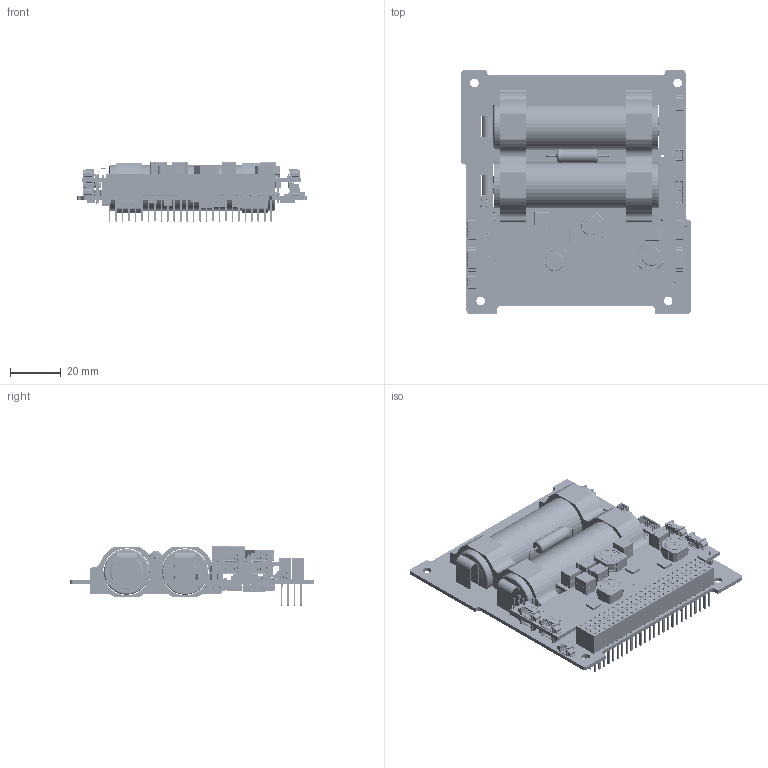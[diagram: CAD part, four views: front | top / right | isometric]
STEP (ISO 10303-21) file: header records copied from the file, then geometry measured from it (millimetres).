
FILE_DESCRIPTION(/* description */ ('Unknown'),/* implementation_level */ '2;1');
FILE_NAME(/* name */ 'SM-AMU-AS-0053_1.0_AMUN 1U Assembly Model',/* time_stamp */ '2025-03-28T14:42:34+01:00',/* author */ ('Unknown'),/* organization */ ('Unknown'),/* preprocessor_version */ 'ST-DEVELOPER v20',/* originating_system */ 'Solid Edge',/* authorisation */ 'Unknown');
FILE_SCHEMA (('AUTOMOTIVE_DESIGN {1 0 10303 214 3 1 1}'));
Products named in the file (224): RMC-PSU2_lowdetail; Board; BAT3; Batery Pack; NCR18650B_Vìchoz¡; Vyvody_Vìchoz¡; R18; KNP03S_47R_6; X9; 10132798_032100LF; X8; 10132798_032100LF_0; X7; 10132798_032100LF_1; LED1; LED0603_Red; JP1; WWS02G; WWSPin_Pin1; WWSPuzdro_Puzdro; U3; SOP_0; D2; SMP Package; U9; product; U5; SOP_1; RBF; 533980271; C7_2; C_AVX_1210_279; C7_1; C_AVX_1210_279_0; L11_2; Coilcraft AE465PYA521MSZ - Outgassing Compliant Power Inductors AE465
PYAAA; logo; terminals; U39_2; DRB (S-PVSON-N8)_2400x1650 ...
Assembly tree (313 placements, depth 5):
  RMC-PSU2_lowdetail
    Board
    BAT3
      Batery Pack
        NCR18650B_Vìchoz¡  x2
        Vyvody_Vìchoz¡
    R18
      KNP03S_47R_6
    X9
      10132798_032100LF
    X8
      10132798_032100LF_0
    X7
      10132798_032100LF_1
    LED1
      LED0603_Red
    JP1
      WWS02G
        WWSPin_Pin1  x2
        WWSPuzdro_Puzdro  x2
    U3
      SOP_0
    D2
      SMP Package
    U9
      U9
      product
    U5
      SOP_1
    RBF
      533980271
    C7_2
      C_AVX_1210_279
    C7_1
      C_AVX_1210_279_0
    L11_2
      Coilcraft AE465PYA521MSZ - Outgassing Compliant Power Inductors AE465
PYAAA
        Coilcraft AE465PYA521MSZ - Outgassing Compliant Power Inductors AE465
PYAAA
        logo
        terminals
    U39_2
      DRB (S-PVSON-N8)_2400x1650
    U39_1
      DRB (S-PVSON-N8)_2400x1650_0
    C130_2
      CAP_TAJ_AVX_Case B_107J
    C130_1
      CAP_TAJ_AVX_Case B_107J_0
    U43
      1
        1
        2
        NXP Logo
    U38_2
      VQFN-HR(RQF0009A)
    U38_1
      VQFN-HR(RQF0009A)_0
    L11_1
      Coilcraft AE465PYA521MSZ - Outgassing Compliant Power Inductors AE465
PYAAA_0
        Coilcraft AE465PYA521MSZ - Outgassing Compliant Power Inductors AE465
PYAAA_0
Bounding box: 90.17 x 95.89 x 23.26 mm (x, y, z)
Volume: 60153.6 mm3; surface area: 63007.2 mm2
Topology: 572 solids, 572 shells, 22818 faces, 62892 edges, 40735 vertices
Faces by surface type: plane 16737, cylinder 4915, bspline 445, torus 358, sphere 308, cone 55
Full cylindrical faces by diameter (mm): 0.15 x1, 0.18 x6, 0.2 x1, 0.232 x1, 0.3 x3, 0.4 x6, 0.5 x12, 0.519 x3, 0.7 x7, 0.711 x12, 0.911 x116, 1.011 x3, 1.6 x1, 1.948 x6, 2.05 x6, 2.5 x12, 2.511 x6, 2.6 x6, 3.411 x4, 3.46 x1, 3.47 x1, 4.5 x6, 4.7 x6, 4.8 x3, 5.335 x1, 5.5 x2, 7.5 x6, 8.2 x6, 9.7 x3, 10 x2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
Entity records: 725276 total; most frequent: CARTESIAN_POINT 134894, ORIENTED_EDGE 114404, DIRECTION 107139, EDGE_CURVE 57202, LINE 45733, VECTOR 45733, VERTEX_POINT 37333, AXIS2_PLACEMENT_3D 30703
